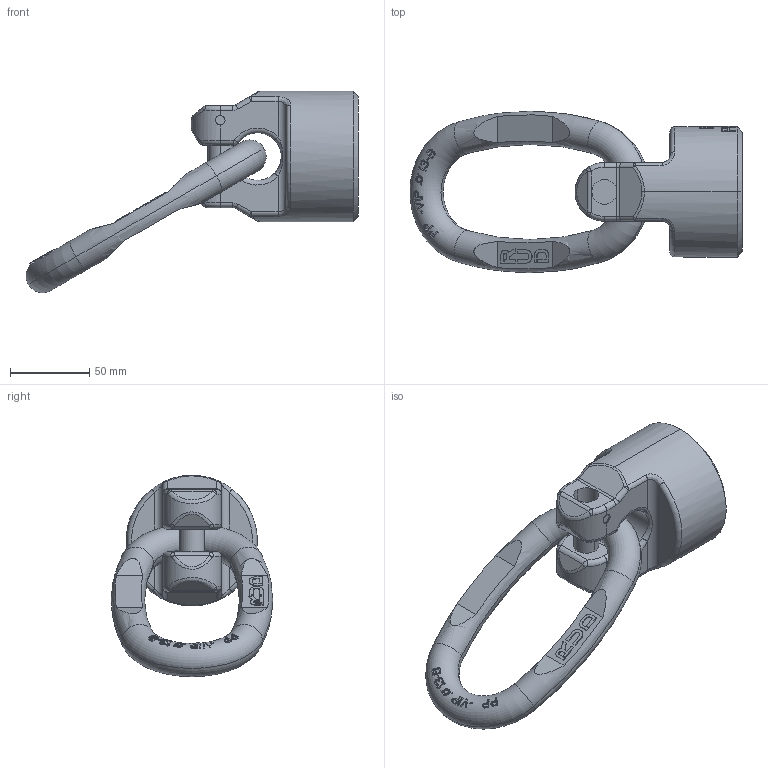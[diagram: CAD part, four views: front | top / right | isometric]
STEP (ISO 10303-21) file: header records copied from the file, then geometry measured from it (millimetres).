
FILE_DESCRIPTION((''),'2;1');
FILE_NAME('001-M31395-P-50_ASM','2018-04-26T',('Anja.Joas'),(''),'PRO/ENGINEER BY PARAMETRIC TECHNOLOGY CORPORATION, 2011490','PRO/ENGINEER BY PARAMETRIC TECHNOLOGY CORPORATION, 2011490','');
FILE_SCHEMA(('CONFIG_CONTROL_DESIGN'));
Length unit declared in the file: millimetre
Products named in the file (3): 001-M31395-P-20_AF0; 001-M31290-004; 001-M31395-P-50_ASM
Assembly tree (2 placements, depth 2):
  001-M31395-P-50_ASM
    001-M31395-P-20_AF0
    001-M31290-004
Bounding box: 209.76 x 102 x 127.25 mm (x, y, z)
Volume: 470342.6 mm3; surface area: 60586.9 mm2
Topology: 2 solids, 2 shells, 593 faces, 1579 edges, 1026 vertices
Faces by surface type: plane 464, cylinder 64, torus 32, bspline 26, sphere 4, cone 2, extrusion 1
Entity records: 20704 total; most frequent: CARTESIAN_POINT 6696, ORIENTED_EDGE 3158, DIRECTION 2492, EDGE_CURVE 1579, VERTEX_POINT 1026, VECTOR 842, LINE 841, AXIS2_PLACEMENT_3D 825
